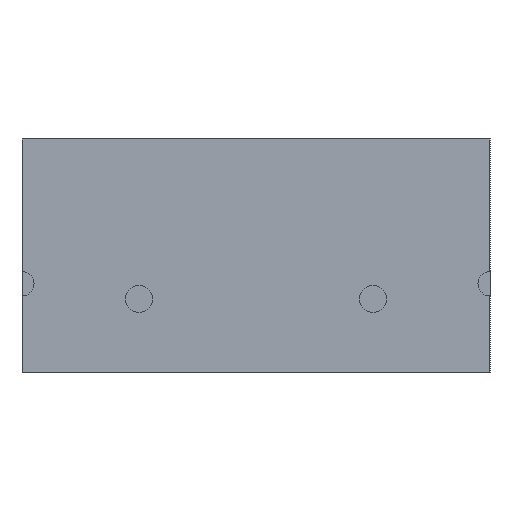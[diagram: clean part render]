
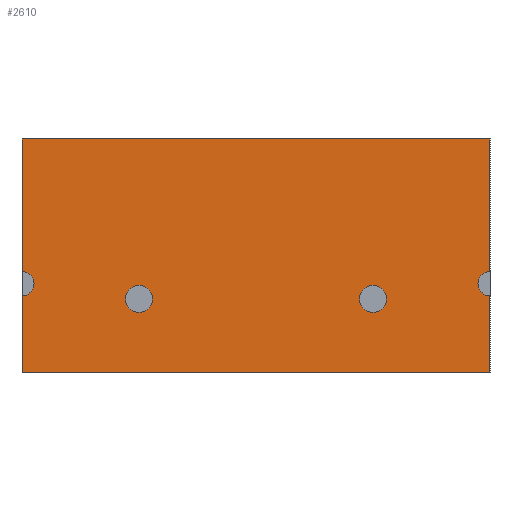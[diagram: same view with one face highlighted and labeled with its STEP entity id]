
A CAD part, left-side view. The second image highlights one B-rep face of the part: STEP entity #2610.
In plain terms, the highlighted planar face has unit normal (-1, 0, 0).
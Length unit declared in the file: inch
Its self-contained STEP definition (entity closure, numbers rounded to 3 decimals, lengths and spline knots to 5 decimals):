
#1 = VERTEX_POINT ( 'NONE', #1615 ) ;
#29 = VERTEX_POINT ( 'NONE', #1590 ) ;
#36 = VECTOR ( 'NONE', #1675, 39.37008 ) ;
#48 = AXIS2_PLACEMENT_3D ( 'NONE', #2079, #983, #2270 ) ;
#51 = DIRECTION ( 'NONE',  ( -1., 0., 0. ) ) ;
#65 = CARTESIAN_POINT ( 'NONE',  ( -0.88963, -0.08036, -0.94 ) ) ;
#89 = VERTEX_POINT ( 'NONE', #1774 ) ;
#123 = VECTOR ( 'NONE', #739, 39.37008 ) ;
#148 = FACE_BOUND ( 'NONE', #1159, .T. ) ;
#190 = VERTEX_POINT ( 'NONE', #372 ) ;
#200 = VECTOR ( 'NONE', #512, 39.37008 ) ;
#207 = AXIS2_PLACEMENT_3D ( 'NONE', #1215, #2560, #1397 ) ;
#222 = FACE_BOUND ( 'NONE', #2173, .T. ) ;
#262 = ORIENTED_EDGE ( 'NONE', *, *, #608, .T. ) ;
#265 = CARTESIAN_POINT ( 'NONE',  ( -0.88963, -0.08036, -0.94 ) ) ;
#278 = CARTESIAN_POINT ( 'NONE',  ( -0.88963, -2.14286, -1.375 ) ) ;
#315 = CARTESIAN_POINT ( 'NONE',  ( -0.88963, 0.60714, -1.375 ) ) ;
#321 = DIRECTION ( 'NONE',  ( 0., -1., 0. ) ) ;
#372 = CARTESIAN_POINT ( 'NONE',  ( -0.88963, -2.14286, -0.921 ) ) ;
#390 = CIRCLE ( 'NONE', #697, 0.0795 ) ;
#430 = VERTEX_POINT ( 'NONE', #1666 ) ;
#459 = ORIENTED_EDGE ( 'NONE', *, *, #780, .F. ) ;
#498 = EDGE_CURVE ( 'NONE', #1, #2115, #1471, .T. ) ;
#504 = DIRECTION ( 'NONE',  ( 0., -1., 0. ) ) ;
#512 = DIRECTION ( 'NONE',  ( 0., 0., 1. ) ) ;
#529 = VECTOR ( 'NONE', #1860, 39.37008 ) ;
#543 = CARTESIAN_POINT ( 'NONE',  ( -0.88963, 0.60714, -1.375 ) ) ;
#548 = EDGE_CURVE ( 'NONE', #89, #922, #1370, .T. ) ;
#551 = EDGE_CURVE ( 'NONE', #1630, #190, #877, .T. ) ;
#564 = EDGE_CURVE ( 'NONE', #1630, #924, #2288, .T. ) ;
#569 = EDGE_CURVE ( 'NONE', #430, #924, #809, .T. ) ;
#573 = EDGE_CURVE ( 'NONE', #29, #430, #2227, .T. ) ;
#581 = EDGE_CURVE ( 'NONE', #2473, #2540, #735, .T. ) ;
#587 = EDGE_CURVE ( 'NONE', #605, #2473, #1194, .T. ) ;
#602 = LINE ( 'NONE', #1686, #529 ) ;
#604 = EDGE_CURVE ( 'NONE', #605, #903, #2616, .T. ) ;
#605 = VERTEX_POINT ( 'NONE', #543 ) ;
#608 = EDGE_CURVE ( 'NONE', #903, #190, #602, .T. ) ;
#615 = EDGE_CURVE ( 'NONE', #2115, #1, #1551, .T. ) ;
#651 = EDGE_CURVE ( 'NONE', #922, #89, #390, .T. ) ;
#669 = VECTOR ( 'NONE', #2064, 39.37008 ) ;
#697 = AXIS2_PLACEMENT_3D ( 'NONE', #65, #1511, #321 ) ;
#715 = AXIS2_PLACEMENT_3D ( 'NONE', #1143, #2458, #1321 ) ;
#735 = CIRCLE ( 'NONE', #740, 0.071 ) ;
#739 = DIRECTION ( 'NONE',  ( 0., 0., 1. ) ) ;
#740 = AXIS2_PLACEMENT_3D ( 'NONE', #1327, #51, #1502 ) ;
#752 = CARTESIAN_POINT ( 'NONE',  ( -0.88963, 0.60714, -1.375 ) ) ;
#756 = AXIS2_PLACEMENT_3D ( 'NONE', #2038, #934, #2225 ) ;
#767 = AXIS2_PLACEMENT_3D ( 'NONE', #265, #1651, #504 ) ;
#780 = EDGE_CURVE ( 'NONE', #2540, #29, #2078, .T. ) ;
#808 = ORIENTED_EDGE ( 'NONE', *, *, #564, .T. ) ;
#809 = LINE ( 'NONE', #2447, #1728 ) ;
#810 = ORIENTED_EDGE ( 'NONE', *, *, #548, .F. ) ;
#855 = DIRECTION ( 'NONE',  ( 0., -1., 0. ) ) ;
#877 = CIRCLE ( 'NONE', #756, 0.071 ) ;
#903 = VERTEX_POINT ( 'NONE', #1739 ) ;
#922 = VERTEX_POINT ( 'NONE', #2312 ) ;
#924 = VERTEX_POINT ( 'NONE', #1214 ) ;
#934 = DIRECTION ( 'NONE',  ( -1., 0., 0. ) ) ;
#983 = DIRECTION ( 'NONE',  ( -1., 0., 0. ) ) ;
#1020 = ORIENTED_EDGE ( 'NONE', *, *, #615, .F. ) ;
#1143 = CARTESIAN_POINT ( 'NONE',  ( -0.88963, -1.45536, -0.94 ) ) ;
#1159 = EDGE_LOOP ( 'NONE', ( #810, #2547 ) ) ;
#1194 = LINE ( 'NONE', #752, #669 ) ;
#1214 = CARTESIAN_POINT ( 'NONE',  ( -0.88963, -2.14286, 0. ) ) ;
#1215 = CARTESIAN_POINT ( 'NONE',  ( -0.88963, 0.60714, -0.85 ) ) ;
#1228 = CARTESIAN_POINT ( 'NONE',  ( -0.88963, 0.53614, -0.85 ) ) ;
#1307 = ORIENTED_EDGE ( 'NONE', *, *, #581, .F. ) ;
#1321 = DIRECTION ( 'NONE',  ( 0., -1., 0. ) ) ;
#1327 = CARTESIAN_POINT ( 'NONE',  ( -0.88963, 0.60714, -0.85 ) ) ;
#1370 = CIRCLE ( 'NONE', #767, 0.0795 ) ;
#1397 = DIRECTION ( 'NONE',  ( 0., -1., 0. ) ) ;
#1471 = CIRCLE ( 'NONE', #48, 0.0795 ) ;
#1476 = CARTESIAN_POINT ( 'NONE',  ( -0.88963, -2.14286, -0.779 ) ) ;
#1502 = DIRECTION ( 'NONE',  ( 0., -1., 0. ) ) ;
#1511 = DIRECTION ( 'NONE',  ( -1., 0., 0. ) ) ;
#1522 = CARTESIAN_POINT ( 'NONE',  ( -0.88963, -1.37586, -0.94 ) ) ;
#1551 = CIRCLE ( 'NONE', #715, 0.0795 ) ;
#1562 = EDGE_LOOP ( 'NONE', ( #2594, #808, #2525, #2367, #459, #1307, #2593, #1695, #262 ) ) ;
#1571 = PLANE ( 'NONE',  #2536 ) ;
#1590 = CARTESIAN_POINT ( 'NONE',  ( -0.88963, 0.60714, -0.779 ) ) ;
#1615 = CARTESIAN_POINT ( 'NONE',  ( -0.88963, -1.53486, -0.94 ) ) ;
#1630 = VERTEX_POINT ( 'NONE', #1476 ) ;
#1651 = DIRECTION ( 'NONE',  ( -1., 0., 0. ) ) ;
#1666 = CARTESIAN_POINT ( 'NONE',  ( -0.88963, 0.60714, 0. ) ) ;
#1675 = DIRECTION ( 'NONE',  ( 0., -1., 0. ) ) ;
#1686 = CARTESIAN_POINT ( 'NONE',  ( -0.88963, -2.14286, -1.375 ) ) ;
#1695 = ORIENTED_EDGE ( 'NONE', *, *, #604, .T. ) ;
#1728 = VECTOR ( 'NONE', #1846, 39.37008 ) ;
#1739 = CARTESIAN_POINT ( 'NONE',  ( -0.88963, -2.14286, -1.375 ) ) ;
#1754 = FACE_OUTER_BOUND ( 'NONE', #1562, .T. ) ;
#1773 = CARTESIAN_POINT ( 'NONE',  ( -0.88963, 0.60714, -1.375 ) ) ;
#1774 = CARTESIAN_POINT ( 'NONE',  ( -0.88963, -0.00086, -0.94 ) ) ;
#1846 = DIRECTION ( 'NONE',  ( 0., -1., 0. ) ) ;
#1860 = DIRECTION ( 'NONE',  ( 0., 0., 1. ) ) ;
#1962 = DIRECTION ( 'NONE',  ( -1., 0., 0. ) ) ;
#2038 = CARTESIAN_POINT ( 'NONE',  ( -0.88963, -2.14286, -0.85 ) ) ;
#2064 = DIRECTION ( 'NONE',  ( 0., 0., 1. ) ) ;
#2078 = CIRCLE ( 'NONE', #207, 0.071 ) ;
#2079 = CARTESIAN_POINT ( 'NONE',  ( -0.88963, -1.45536, -0.94 ) ) ;
#2115 = VERTEX_POINT ( 'NONE', #1522 ) ;
#2151 = ORIENTED_EDGE ( 'NONE', *, *, #498, .F. ) ;
#2173 = EDGE_LOOP ( 'NONE', ( #1020, #2151 ) ) ;
#2225 = DIRECTION ( 'NONE',  ( 0., -1., 0. ) ) ;
#2227 = LINE ( 'NONE', #2455, #123 ) ;
#2270 = DIRECTION ( 'NONE',  ( 0., -1., 0. ) ) ;
#2288 = LINE ( 'NONE', #278, #200 ) ;
#2312 = CARTESIAN_POINT ( 'NONE',  ( -0.88963, -0.15986, -0.94 ) ) ;
#2367 = ORIENTED_EDGE ( 'NONE', *, *, #573, .F. ) ;
#2447 = CARTESIAN_POINT ( 'NONE',  ( -0.88963, 0.60714, 0. ) ) ;
#2455 = CARTESIAN_POINT ( 'NONE',  ( -0.88963, 0.60714, -1.375 ) ) ;
#2458 = DIRECTION ( 'NONE',  ( -1., 0., 0. ) ) ;
#2473 = VERTEX_POINT ( 'NONE', #2563 ) ;
#2525 = ORIENTED_EDGE ( 'NONE', *, *, #569, .F. ) ;
#2536 = AXIS2_PLACEMENT_3D ( 'NONE', #1773, #1962, #855 ) ;
#2540 = VERTEX_POINT ( 'NONE', #1228 ) ;
#2547 = ORIENTED_EDGE ( 'NONE', *, *, #651, .F. ) ;
#2560 = DIRECTION ( 'NONE',  ( -1., 0., 0. ) ) ;
#2563 = CARTESIAN_POINT ( 'NONE',  ( -0.88963, 0.60714, -0.921 ) ) ;
#2593 = ORIENTED_EDGE ( 'NONE', *, *, #587, .F. ) ;
#2594 = ORIENTED_EDGE ( 'NONE', *, *, #551, .F. ) ;
#2610 = ADVANCED_FACE ( 'NONE', ( #148, #1754, #222 ), #1571, .T. ) ;
#2616 = LINE ( 'NONE', #315, #36 ) ;
